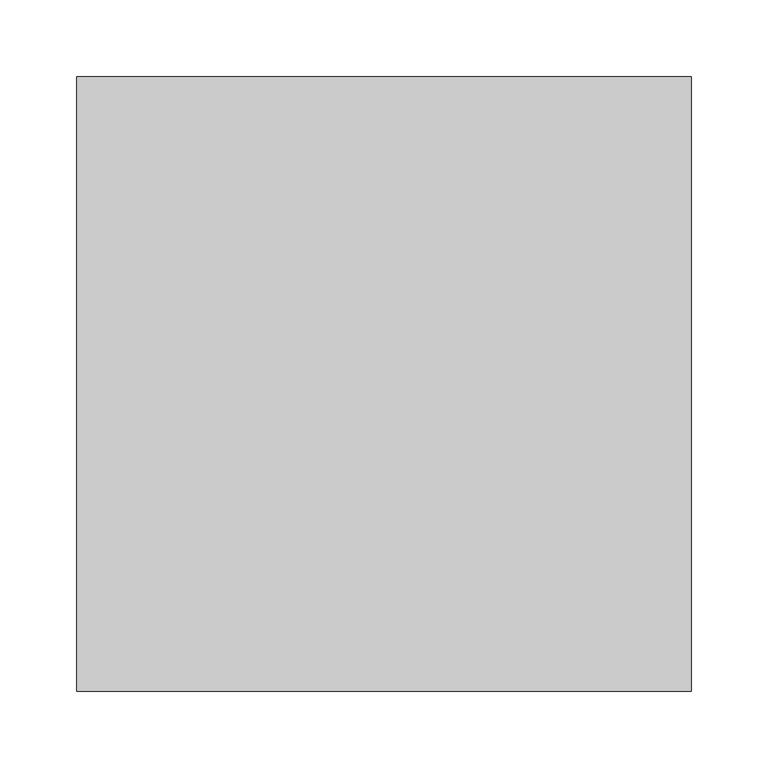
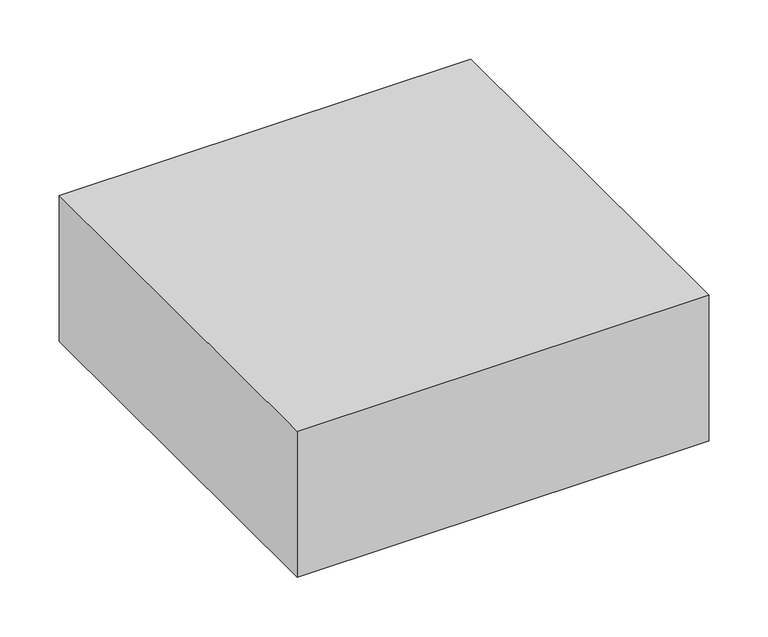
"""IFC4 building model written with IfcOpenShell, lengths in millimetres: column geometry, Column Encasement1 : Column Encasement."""

from ifc_helpers import new_model, si_unit, frame, origin, place, context, project, spatial, polyline, outline, extrude, source, transform, mapped, element, save


def column_027ce092(model_context):
    return source(origin(), model_context, "Body", "SweptSolid", [
        extrude(outline(polyline([(-34433.2346198, 16067.3350736), (-34033.2346198, 16067.3350736), (-34033.2346198, 15667.3350736), (-34433.2346198, 15667.3350736), (-34433.2346198, 16067.3350736)])), frame((0.0, 0.0, -93.0), z_axis=(0.0, 0.0, 1.0), x_axis=(1.0, 0.0, 0.0)), (0.0, 0.0, 1.0), 150.0),
    ])


if __name__ == "__main__":
    model = new_model("IFC4")
    model_context = context("Model", 3, world=origin())
    ifc_project = project(units=[si_unit("LENGTHUNIT", "METRE", prefix="MILLI")], contexts=[model_context])
    site = spatial("IfcSite", under=ifc_project)
    building = spatial("IfcBuilding", under=site)
    placement = place(None, origin())
    column_shape = column_027ce092(model_context)
    element("IfcColumn", 1, ObjectType="Column Encasement1 : Column Encasement", at=placement, inside=building, context=model_context, shape_type="MappedRepresentation", body=[
        mapped(column_shape, transform((0.0, 0.0, 0.0), x_axis=(1.0, 0.0, 0.0), y_axis=(0.0, 1.0, 0.0), z_axis=(0.0, 0.0, 1.0))),
    ])
    save(model, "model.ifc")
